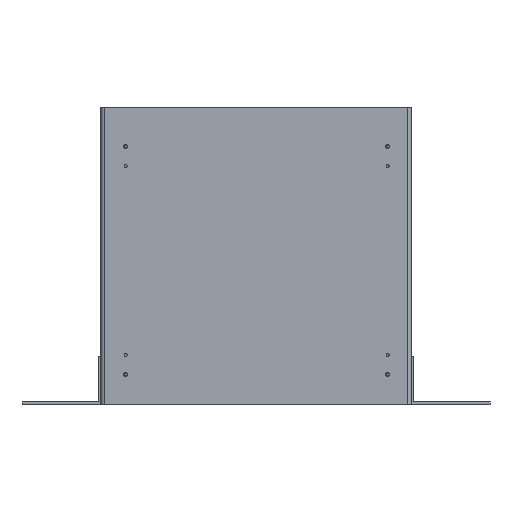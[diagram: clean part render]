
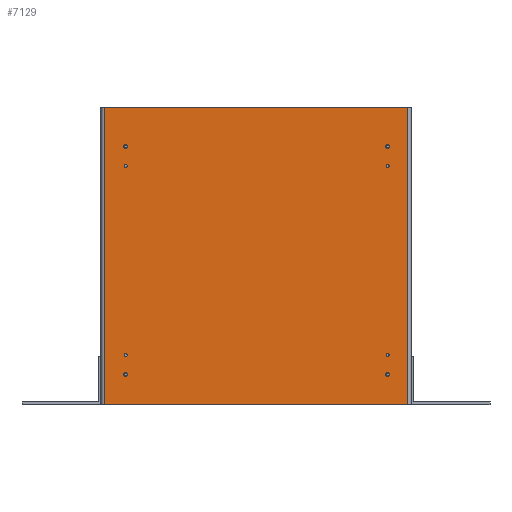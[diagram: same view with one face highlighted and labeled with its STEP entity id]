
A CAD part, top view. The second image highlights one B-rep face of the part: STEP entity #7129.
In plain terms, the highlighted planar face has unit normal (0, 0, 1) as drawn and (0, 0, -1) by its records, which use the part's own axes.
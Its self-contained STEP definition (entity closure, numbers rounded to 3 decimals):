
#326=LINE('',#10708,#1046);
#332=LINE('',#10725,#1052);
#390=LINE('',#10924,#1110);
#391=LINE('',#10926,#1111);
#1046=VECTOR('',#8719,313.);
#1052=VECTOR('',#8731,313.);
#1110=VECTOR('',#8967,306.7);
#1111=VECTOR('',#8970,306.7);
#1840=PLANE('',#7696);
#2079=FACE_BOUND('',#2839,.T.);
#2080=FACE_BOUND('',#2840,.T.);
#2081=FACE_BOUND('',#2841,.T.);
#2082=FACE_BOUND('',#2842,.T.);
#2083=FACE_BOUND('',#2843,.T.);
#2084=FACE_BOUND('',#2844,.T.);
#2085=FACE_BOUND('',#2845,.T.);
#2086=FACE_BOUND('',#2846,.T.);
#2378=FACE_OUTER_BOUND('',#2838,.T.);
#2838=EDGE_LOOP('',(#5835,#5836,#5837,#5838));
#2839=EDGE_LOOP('',(#5839));
#2840=EDGE_LOOP('',(#5840));
#2841=EDGE_LOOP('',(#5841));
#2842=EDGE_LOOP('',(#5842));
#2843=EDGE_LOOP('',(#5843));
#2844=EDGE_LOOP('',(#5844));
#2845=EDGE_LOOP('',(#5845));
#2846=EDGE_LOOP('',(#5846));
#3261=CIRCLE('',#7609,2.);
#3263=CIRCLE('',#7612,1.6);
#3265=CIRCLE('',#7615,1.6);
#3267=CIRCLE('',#7618,2.);
#3269=CIRCLE('',#7621,1.6);
#3271=CIRCLE('',#7624,2.);
#3297=CIRCLE('',#7697,1.6);
#3298=CIRCLE('',#7698,1.6);
#3617=VERTEX_POINT('',#10705);
#3618=VERTEX_POINT('',#10707);
#3625=VERTEX_POINT('',#10722);
#3626=VERTEX_POINT('',#10724);
#3631=VERTEX_POINT('',#10736);
#3633=VERTEX_POINT('',#10741);
#3635=VERTEX_POINT('',#10746);
#3637=VERTEX_POINT('',#10751);
#3639=VERTEX_POINT('',#10756);
#3641=VERTEX_POINT('',#10761);
#3679=VERTEX_POINT('',#10927);
#3680=VERTEX_POINT('',#10929);
#4366=EDGE_CURVE('',#3617,#3618,#326,.T.);
#4374=EDGE_CURVE('',#3626,#3625,#332,.T.);
#4380=EDGE_CURVE('',#3631,#3631,#3261,.T.);
#4382=EDGE_CURVE('',#3633,#3633,#3263,.T.);
#4384=EDGE_CURVE('',#3635,#3635,#3265,.T.);
#4386=EDGE_CURVE('',#3637,#3637,#3267,.T.);
#4388=EDGE_CURVE('',#3639,#3639,#3269,.T.);
#4390=EDGE_CURVE('',#3641,#3641,#3271,.T.);
#4469=EDGE_CURVE('',#3625,#3618,#390,.F.);
#4470=EDGE_CURVE('',#3617,#3626,#391,.F.);
#4471=EDGE_CURVE('',#3679,#3679,#3297,.T.);
#4472=EDGE_CURVE('',#3680,#3680,#3298,.T.);
#5835=ORIENTED_EDGE('',*,*,#4366,.F.);
#5836=ORIENTED_EDGE('',*,*,#4470,.T.);
#5837=ORIENTED_EDGE('',*,*,#4374,.T.);
#5838=ORIENTED_EDGE('',*,*,#4469,.T.);
#5839=ORIENTED_EDGE('',*,*,#4380,.T.);
#5840=ORIENTED_EDGE('',*,*,#4382,.T.);
#5841=ORIENTED_EDGE('',*,*,#4384,.T.);
#5842=ORIENTED_EDGE('',*,*,#4386,.T.);
#5843=ORIENTED_EDGE('',*,*,#4388,.T.);
#5844=ORIENTED_EDGE('',*,*,#4390,.T.);
#5845=ORIENTED_EDGE('',*,*,#4471,.T.);
#5846=ORIENTED_EDGE('',*,*,#4472,.T.);
#7129=ADVANCED_FACE('',(#2378,#2079,#2080,#2081,#2082,#2083,#2084,#2085,
#2086),#1840,.T.);
#7609=AXIS2_PLACEMENT_3D('',#10737,#8740,#8741);
#7612=AXIS2_PLACEMENT_3D('',#10742,#8746,#8747);
#7615=AXIS2_PLACEMENT_3D('',#10747,#8752,#8753);
#7618=AXIS2_PLACEMENT_3D('',#10752,#8758,#8759);
#7621=AXIS2_PLACEMENT_3D('',#10757,#8764,#8765);
#7624=AXIS2_PLACEMENT_3D('',#10762,#8770,#8771);
#7696=AXIS2_PLACEMENT_3D('',#10925,#8968,#8969);
#7697=AXIS2_PLACEMENT_3D('',#10928,#8971,#8972);
#7698=AXIS2_PLACEMENT_3D('',#10930,#8973,#8974);
#8719=DIRECTION('',(1.,0.,0.));
#8731=DIRECTION('',(1.,0.,0.));
#8740=DIRECTION('center_axis',(0.,0.,1.));
#8741=DIRECTION('ref_axis',(1.,0.,0.));
#8746=DIRECTION('center_axis',(0.,0.,1.));
#8747=DIRECTION('ref_axis',(1.,0.,0.));
#8752=DIRECTION('center_axis',(0.,0.,1.));
#8753=DIRECTION('ref_axis',(1.,0.,0.));
#8758=DIRECTION('center_axis',(0.,0.,1.));
#8759=DIRECTION('ref_axis',(1.,0.,0.));
#8764=DIRECTION('center_axis',(0.,0.,1.));
#8765=DIRECTION('ref_axis',(1.,0.,0.));
#8770=DIRECTION('center_axis',(0.,0.,1.));
#8771=DIRECTION('ref_axis',(1.,0.,0.));
#8967=DIRECTION('',(0.,1.,0.));
#8968=DIRECTION('center_axis',(0.,0.,-1.));
#8969=DIRECTION('ref_axis',(-1.,0.,0.));
#8970=DIRECTION('',(0.,-1.,0.));
#8971=DIRECTION('center_axis',(0.,0.,1.));
#8972=DIRECTION('ref_axis',(1.,0.,0.));
#8973=DIRECTION('center_axis',(0.,0.,1.));
#8974=DIRECTION('ref_axis',(1.,0.,0.));
#10705=CARTESIAN_POINT('',(3.5,37.7,0.));
#10707=CARTESIAN_POINT('',(316.5,37.7,0.));
#10708=CARTESIAN_POINT('',(92.073,37.7,0.));
#10722=CARTESIAN_POINT('',(316.5,344.4,0.));
#10724=CARTESIAN_POINT('',(3.5,344.4,0.));
#10725=CARTESIAN_POINT('',(160.,344.4,0.));
#10736=CARTESIAN_POINT('',(296.445,68.6,0.));
#10737=CARTESIAN_POINT('Origin',(294.445,68.6,0.));
#10741=CARTESIAN_POINT('',(25.745,68.6,0.));
#10742=CARTESIAN_POINT('Origin',(24.145,68.6,0.));
#10746=CARTESIAN_POINT('',(296.045,283.9,0.));
#10747=CARTESIAN_POINT('Origin',(294.445,283.9,0.));
#10751=CARTESIAN_POINT('',(296.445,303.9,0.));
#10752=CARTESIAN_POINT('Origin',(294.445,303.9,0.));
#10756=CARTESIAN_POINT('',(25.745,283.9,0.));
#10757=CARTESIAN_POINT('Origin',(24.145,283.9,0.));
#10761=CARTESIAN_POINT('',(26.145,303.9,0.));
#10762=CARTESIAN_POINT('Origin',(24.145,303.9,0.));
#10924=CARTESIAN_POINT('',(316.5,169.9,0.));
#10925=CARTESIAN_POINT('Origin',(24.145,296.6,0.));
#10926=CARTESIAN_POINT('',(3.5,204.2,0.));
#10927=CARTESIAN_POINT('',(292.845,88.6,0.));
#10928=CARTESIAN_POINT('Origin',(294.445,88.6,0.));
#10929=CARTESIAN_POINT('',(22.545,88.6,0.));
#10930=CARTESIAN_POINT('Origin',(24.145,88.6,0.));
